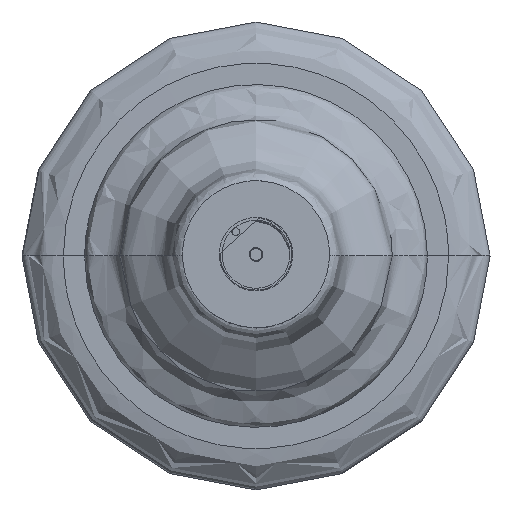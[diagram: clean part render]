
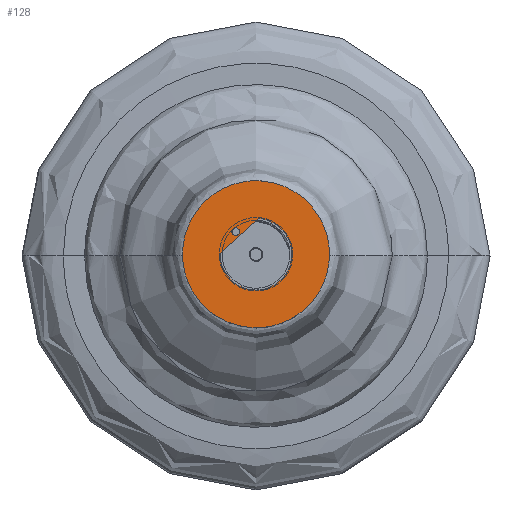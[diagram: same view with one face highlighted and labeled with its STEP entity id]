
A CAD part, top view. The second image highlights one B-rep face of the part: STEP entity #128.
In plain terms, the highlighted planar face has unit normal (0, 0, 1).
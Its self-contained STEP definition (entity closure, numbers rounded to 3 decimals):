
#104=FACE_BOUND('',#349,.T.);
#105=FACE_BOUND('',#350,.T.);
#128=ADVANCED_FACE('',(#238,#104,#105),#1756,.T.);
#238=FACE_OUTER_BOUND('',#348,.T.);
#348=EDGE_LOOP('',(#494,#495,#496,#497));
#349=EDGE_LOOP('',(#498,#499,#500,#501));
#350=EDGE_LOOP('',(#502,#503));
#494=ORIENTED_EDGE('',*,*,#1048,.F.);
#495=ORIENTED_EDGE('',*,*,#1037,.F.);
#496=ORIENTED_EDGE('',*,*,#1038,.F.);
#497=ORIENTED_EDGE('',*,*,#1042,.F.);
#498=ORIENTED_EDGE('',*,*,#1027,.T.);
#499=ORIENTED_EDGE('',*,*,#1026,.F.);
#500=ORIENTED_EDGE('',*,*,#1046,.F.);
#501=ORIENTED_EDGE('',*,*,#1030,.F.);
#502=ORIENTED_EDGE('',*,*,#1035,.F.);
#503=ORIENTED_EDGE('',*,*,#1033,.F.);
#1026=EDGE_CURVE('',#1587,#1576,#1419,.T.);
#1027=EDGE_CURVE('',#1577,#1576,#1420,.T.);
#1030=EDGE_CURVE('',#1577,#1590,#1422,.T.);
#1033=EDGE_CURVE('',#1580,#1581,#1302,.T.);
#1035=EDGE_CURVE('',#1581,#1580,#1423,.T.);
#1037=EDGE_CURVE('',#1582,#1593,#1425,.T.);
#1038=EDGE_CURVE('',#1583,#1582,#1426,.T.);
#1042=EDGE_CURVE('',#1586,#1583,#1429,.T.);
#1046=EDGE_CURVE('',#1590,#1587,#1432,.T.);
#1048=EDGE_CURVE('',#1593,#1586,#1433,.T.);
#1302=B_SPLINE_CURVE_WITH_KNOTS('',1,(#2056,#2057),.UNSPECIFIED.,.F.,.F.,
(2,2),(-28.142,0.),.UNSPECIFIED.);
#1419=(
BOUNDED_CURVE()
B_SPLINE_CURVE(2,(#2032,#2033,#2034,#2035,#2036),.UNSPECIFIED.,.F.,.F.)
B_SPLINE_CURVE_WITH_KNOTS((3,2,3),(-6.597,-4.891,
-3.184),.UNSPECIFIED.)
CURVE()
GEOMETRIC_REPRESENTATION_ITEM()
RATIONAL_B_SPLINE_CURVE((1.,0.919,1.,0.919,1.))
REPRESENTATION_ITEM('')
);
#1420=(
BOUNDED_CURVE()
B_SPLINE_CURVE(2,(#2037,#2038,#2039),.UNSPECIFIED.,.F.,.F.)
B_SPLINE_CURVE_WITH_KNOTS((3,3),(0.,3.184),.UNSPECIFIED.)
CURVE()
GEOMETRIC_REPRESENTATION_ITEM()
RATIONAL_B_SPLINE_CURVE((1.,0.726,1.))
REPRESENTATION_ITEM('')
);
#1422=(
BOUNDED_CURVE()
B_SPLINE_CURVE(2,(#2047,#2048,#2049,#2050,#2051),.UNSPECIFIED.,.F.,.F.)
B_SPLINE_CURVE_WITH_KNOTS((3,2,3),(-13.195,-11.488,
-9.781),.UNSPECIFIED.)
CURVE()
GEOMETRIC_REPRESENTATION_ITEM()
RATIONAL_B_SPLINE_CURVE((1.,0.919,1.,0.919,1.))
REPRESENTATION_ITEM('')
);
#1423=(
BOUNDED_CURVE()
B_SPLINE_CURVE(2,(#2060,#2061,#2062,#2063,#2064,#2065,#2066,#2067,#2068),
 .UNSPECIFIED.,.F.,.F.)
B_SPLINE_CURVE_WITH_KNOTS((3,2,2,2,3),(-91.084,-68.313,
-45.542,-22.771,0.),.UNSPECIFIED.)
CURVE()
GEOMETRIC_REPRESENTATION_ITEM()
RATIONAL_B_SPLINE_CURVE((1.,0.834,1.,0.834,1.,0.834,
1.,0.834,1.))
REPRESENTATION_ITEM('')
);
#1425=(
BOUNDED_CURVE()
B_SPLINE_CURVE(2,(#2078,#2079,#2080),.UNSPECIFIED.,.F.,.F.)
B_SPLINE_CURVE_WITH_KNOTS((3,3),(0.,60.646),.UNSPECIFIED.)
CURVE()
GEOMETRIC_REPRESENTATION_ITEM()
RATIONAL_B_SPLINE_CURVE((1.,0.726,1.))
REPRESENTATION_ITEM('')
);
#1426=(
BOUNDED_CURVE()
B_SPLINE_CURVE(2,(#2081,#2082,#2083,#2084,#2085),.UNSPECIFIED.,.F.,.F.)
B_SPLINE_CURVE_WITH_KNOTS((3,2,3),(186.309,218.818,251.327),
 .UNSPECIFIED.)
CURVE()
GEOMETRIC_REPRESENTATION_ITEM()
RATIONAL_B_SPLINE_CURVE((1.,0.919,1.,0.919,1.))
REPRESENTATION_ITEM('')
);
#1429=(
BOUNDED_CURVE()
B_SPLINE_CURVE(2,(#2096,#2097,#2098),.UNSPECIFIED.,.F.,.F.)
B_SPLINE_CURVE_WITH_KNOTS((3,3),(125.664,186.309),
 .UNSPECIFIED.)
CURVE()
GEOMETRIC_REPRESENTATION_ITEM()
RATIONAL_B_SPLINE_CURVE((1.,0.726,1.))
REPRESENTATION_ITEM('')
);
#1432=(
BOUNDED_CURVE()
B_SPLINE_CURVE(2,(#2107,#2108,#2109),.UNSPECIFIED.,.F.,.F.)
B_SPLINE_CURVE_WITH_KNOTS((3,3),(-9.781,-6.597),
 .UNSPECIFIED.)
CURVE()
GEOMETRIC_REPRESENTATION_ITEM()
RATIONAL_B_SPLINE_CURVE((1.,0.726,1.))
REPRESENTATION_ITEM('')
);
#1433=(
BOUNDED_CURVE()
B_SPLINE_CURVE(2,(#2112,#2113,#2114,#2115,#2116),.UNSPECIFIED.,.F.,.F.)
B_SPLINE_CURVE_WITH_KNOTS((3,2,3),(60.646,93.155,125.664),
 .UNSPECIFIED.)
CURVE()
GEOMETRIC_REPRESENTATION_ITEM()
RATIONAL_B_SPLINE_CURVE((1.,0.919,1.,0.919,1.))
REPRESENTATION_ITEM('')
);
#1576=VERTEX_POINT('',#2006);
#1577=VERTEX_POINT('',#2007);
#1580=VERTEX_POINT('',#2010);
#1581=VERTEX_POINT('',#2011);
#1582=VERTEX_POINT('',#2012);
#1583=VERTEX_POINT('',#2013);
#1586=VERTEX_POINT('',#2016);
#1587=VERTEX_POINT('',#2017);
#1590=VERTEX_POINT('',#2020);
#1593=VERTEX_POINT('',#2023);
#1756=PLANE('',#1886);
#1886=AXIS2_PLACEMENT_3D('',#1982,#1915,$);
#1915=DIRECTION('',(0.,0.,1.));
#1982=CARTESIAN_POINT('',(-56.199,-50.368,-0.003));
#2006=CARTESIAN_POINT('',(-13.112,12.288,-0.003));
#2007=CARTESIAN_POINT('',(-11.127,10.191,-0.003));
#2010=CARTESIAN_POINT('',(1.468,19.445,-0.003));
#2011=CARTESIAN_POINT('',(-19.489,0.662,-0.003));
#2012=CARTESIAN_POINT('',(-2.185,-39.94,-0.003));
#2013=CARTESIAN_POINT('',(40.,0.,-0.003));
#2016=CARTESIAN_POINT('',(2.185,39.941,-0.003));
#2017=CARTESIAN_POINT('',(-10.898,14.384,-0.003));
#2020=CARTESIAN_POINT('',(-8.912,12.288,-0.003));
#2023=CARTESIAN_POINT('',(-40.,0.,-0.003));
#2032=CARTESIAN_POINT('',(-10.898,14.384,-0.003));
#2033=CARTESIAN_POINT('',(-11.8,14.434,-0.003));
#2034=CARTESIAN_POINT('',(-12.456,13.812,-0.003));
#2035=CARTESIAN_POINT('',(-13.112,13.191,-0.003));
#2036=CARTESIAN_POINT('',(-13.112,12.288,-0.003));
#2037=CARTESIAN_POINT('',(-11.127,10.191,-0.003));
#2038=CARTESIAN_POINT('',(-13.112,10.299,-0.003));
#2039=CARTESIAN_POINT('',(-13.112,12.288,-0.003));
#2047=CARTESIAN_POINT('',(-11.127,10.191,-0.003));
#2048=CARTESIAN_POINT('',(-10.225,10.141,-0.003));
#2049=CARTESIAN_POINT('',(-9.569,10.763,-0.003));
#2050=CARTESIAN_POINT('',(-8.912,11.384,-0.003));
#2051=CARTESIAN_POINT('',(-8.912,12.288,-0.003));
#2056=CARTESIAN_POINT('',(1.468,19.445,-0.003));
#2057=CARTESIAN_POINT('',(-19.489,0.662,-0.003));
#2060=CARTESIAN_POINT('',(-19.489,0.662,-0.003));
#2061=CARTESIAN_POINT('',(-19.926,-12.214,-0.003));
#2062=CARTESIAN_POINT('',(-8.253,-17.667,-0.003));
#2063=CARTESIAN_POINT('',(3.42,-23.12,-0.003));
#2064=CARTESIAN_POINT('',(13.015,-14.521,-0.003));
#2065=CARTESIAN_POINT('',(22.609,-5.922,-0.003));
#2066=CARTESIAN_POINT('',(18.462,6.276,-0.003));
#2067=CARTESIAN_POINT('',(14.316,18.475,-0.003));
#2068=CARTESIAN_POINT('',(1.468,19.445,-0.003));
#2078=CARTESIAN_POINT('',(-2.185,-39.94,-0.003));
#2079=CARTESIAN_POINT('',(-40.,-37.871,-0.003));
#2080=CARTESIAN_POINT('',(-40.,0.,-0.003));
#2081=CARTESIAN_POINT('',(40.,0.,-0.003));
#2082=CARTESIAN_POINT('',(40.,-17.212,-0.003));
#2083=CARTESIAN_POINT('',(27.501,-29.046,-0.003));
#2084=CARTESIAN_POINT('',(15.002,-40.88,-0.003));
#2085=CARTESIAN_POINT('',(-2.185,-39.94,-0.003));
#2096=CARTESIAN_POINT('',(2.185,39.941,-0.003));
#2097=CARTESIAN_POINT('',(40.,37.872,-0.003));
#2098=CARTESIAN_POINT('',(40.,0.,-0.003));
#2107=CARTESIAN_POINT('',(-8.912,12.288,-0.003));
#2108=CARTESIAN_POINT('',(-8.912,14.276,-0.003));
#2109=CARTESIAN_POINT('',(-10.898,14.384,-0.003));
#2112=CARTESIAN_POINT('',(-40.,0.,-0.003));
#2113=CARTESIAN_POINT('',(-40.,17.213,-0.003));
#2114=CARTESIAN_POINT('',(-27.501,29.047,-0.003));
#2115=CARTESIAN_POINT('',(-15.002,40.881,-0.003));
#2116=CARTESIAN_POINT('',(2.185,39.941,-0.003));
